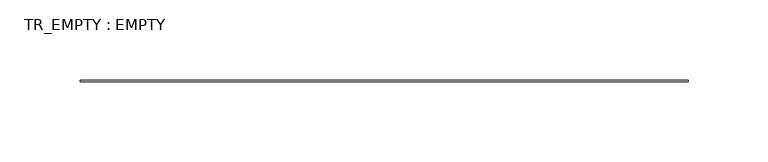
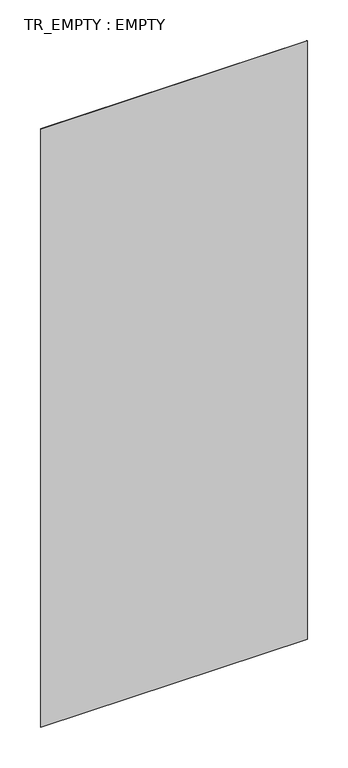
"""IFC4 building model written with IfcOpenShell, lengths in millimetres: plate geometry, TR_EMPTY : EMPTY."""

from ifc_helpers import new_model, si_unit, frame, origin, place, context, project, spatial, polyline, outline, extrude, source, transform, mapped, element, save


def tr_empty_empty_d66e5eec(model_context):
    return source(origin(), model_context, "Body", "SweptSolid", [
        extrude(outline(polyline([(190.0, -31.0), (-190.0, -31.0), (-190.0, -30.0), (190.0, -30.0), (190.0, -31.0)])), frame((0.0, 0.0, 50.0), z_axis=(0.0, 0.0, 1.0), x_axis=(1.0, 0.0, 0.0)), (0.0, 0.0, 1.0), 900.0),
    ])


if __name__ == "__main__":
    model = new_model("IFC4")
    model_context = context("Model", 3, world=origin())
    ifc_project = project(units=[si_unit("LENGTHUNIT", "METRE", prefix="MILLI")], contexts=[model_context])
    site = spatial("IfcSite", under=ifc_project)
    building = spatial("IfcBuilding", under=site)
    placement = place(None, origin())
    tr_empty_empty_shape = tr_empty_empty_d66e5eec(model_context)
    element("IfcPlate", 1, ObjectType="TR_EMPTY : EMPTY", at=placement, inside=building, context=model_context, shape_type="MappedRepresentation", body=[
        mapped(tr_empty_empty_shape, transform((0.0, 0.0, 0.0), x_axis=(1.0, 0.0, 0.0), y_axis=(0.0, 1.0, 0.0), z_axis=(0.0, 0.0, 1.0))),
    ])
    save(model, "model.ifc")
